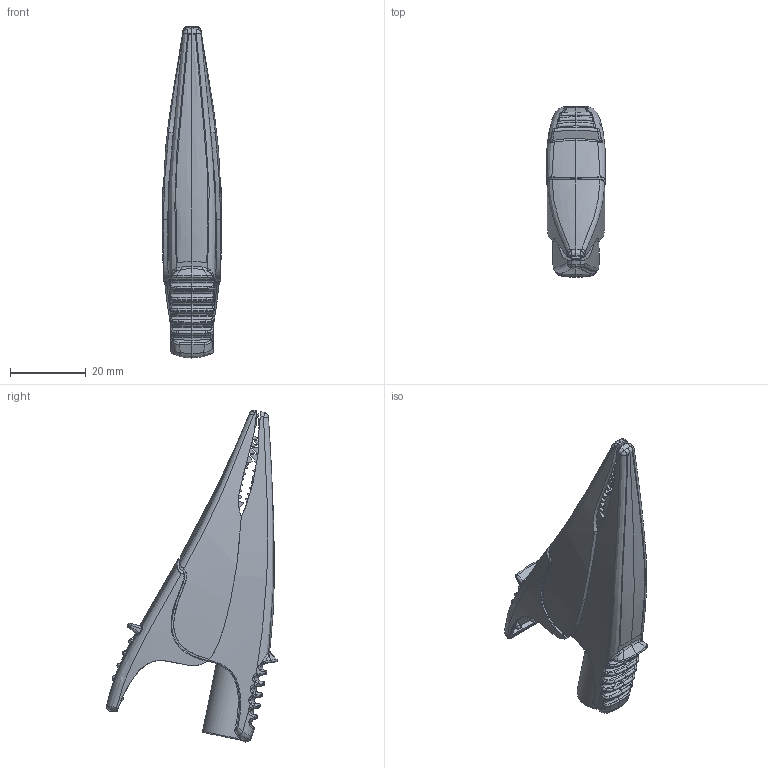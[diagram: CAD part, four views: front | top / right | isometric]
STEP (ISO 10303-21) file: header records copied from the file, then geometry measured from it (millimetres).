
FILE_DESCRIPTION((''),'2;1');
FILE_NAME('AC285_ASM_ASM','2021-02-19T10:43:55',('thnguyen'),(''),'CREO PARAMETRIC BY PTC INC, 2019080','CREO PARAMETRIC BY PTC INC, 2019080','');
FILE_SCHEMA(('CONFIG_CONTROL_DESIGN','SHAPE_APPEARANCE_LAYERS_GROUPS'));
Length unit declared in the file: inch
Products named in the file (13): AC285_LOWER_JAW_2; AC285_LOWER_HSG_16; AC285_LOWER_HSG_ASM_2_ASM; AC285_UPPER_JAW_2; AC285_UPPER_HSG_PREMOLD_5; AC285_UPPER_HSG_OVRMOLD_10; AC285_UPPER_HSG_OVRMOLD_ASM_4_ASM; AC285_UPPER_HSG_ASM_4_ASM; AC285_RIVET_2; AC285_TRSN_SPRG_INSTALLED_4; IR_INSUL_RED_PRESTO_2; AC285_ASM_7_ASM; AC285_ASM_ASM
Assembly tree (12 placements, depth 5):
  AC285_ASM_ASM
    AC285_ASM_7_ASM
      AC285_LOWER_HSG_ASM_2_ASM
        AC285_LOWER_JAW_2
        AC285_LOWER_HSG_16
      AC285_UPPER_HSG_ASM_4_ASM
        AC285_UPPER_JAW_2
        AC285_UPPER_HSG_OVRMOLD_ASM_4_ASM
          AC285_UPPER_HSG_PREMOLD_5
          AC285_UPPER_HSG_OVRMOLD_10
      AC285_RIVET_2
      AC285_TRSN_SPRG_INSTALLED_4
      IR_INSUL_RED_PRESTO_2
Bounding box: 15.59 x 45.02 x 87.51 mm (x, y, z)
Volume: 10417.8 mm3; surface area: 19735.7 mm2
Topology: 8 solids, 8 shells, 1005 faces, 2657 edges, 1670 vertices
Faces by surface type: bspline 356, plane 278, cylinder 230, torus 52, cone 44, extrusion 37, sphere 8
Entity records: 61909 total; most frequent: CARTESIAN_POINT 40298, ORIENTED_EDGE 5286, DIRECTION 3030, EDGE_CURVE 2643, VERTEX_POINT 1670, B_SPLINE_CURVE_WITH_KNOTS 1397, AXIS2_PLACEMENT_3D 1062, EDGE_LOOP 1051
